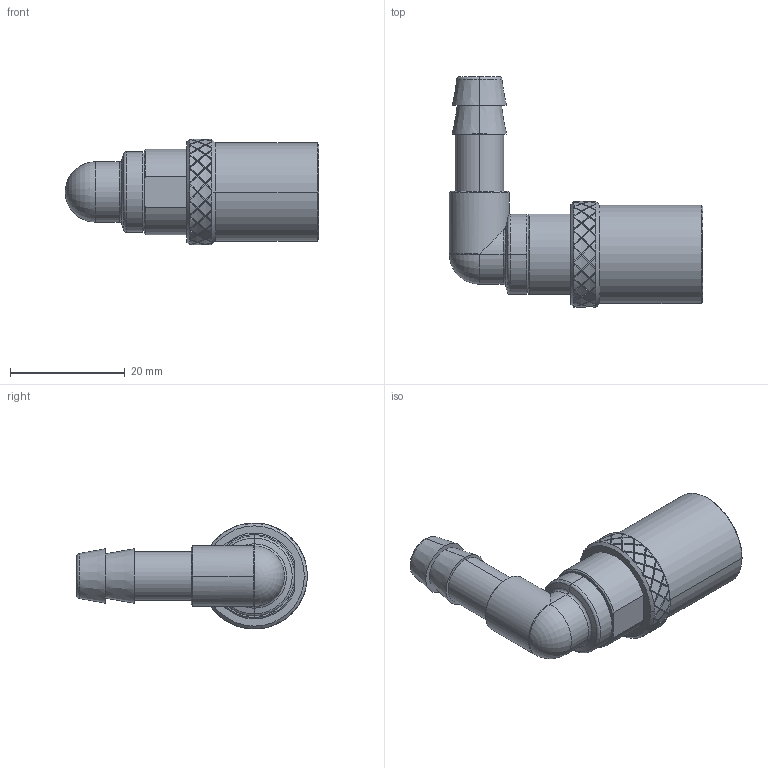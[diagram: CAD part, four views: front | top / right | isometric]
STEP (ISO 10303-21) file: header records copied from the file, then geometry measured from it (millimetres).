
FILE_DESCRIPTION (( 'STEP AP214' ), '1' );
FILE_NAME ('436SW00002A.step', '2012-11-19T11:06:22', ( '' ), ( '' ), 'SwSTEP 2.0', 'SolidWorks 2012', '' );
FILE_SCHEMA (( 'AUTOMOTIVE_DESIGN' ));
Length unit declared in the file: millimetre
Products named in the file (1): 436SW00002A
Bounding box: 44.25 x 40.25 x 18.5 mm (x, y, z)
Volume: 9839.1 mm3; surface area: 3383 mm2
Topology: 1 solids, 1 shells, 459 faces, 1164 edges, 712 vertices
Faces by surface type: bspline 240, cylinder 100, plane 90, cone 19, torus 10
Entity records: 16606 total; most frequent: CARTESIAN_POINT 7188, ORIENTED_EDGE 2328, EDGE_CURVE 1164, DIRECTION 1096, B_SPLINE_CURVE_WITH_KNOTS 812, VERTEX_POINT 712, AXIS2_PLACEMENT_3D 528, EDGE_LOOP 464
